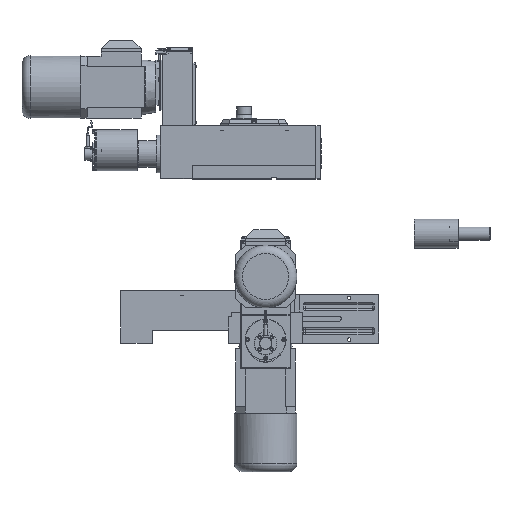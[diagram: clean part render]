
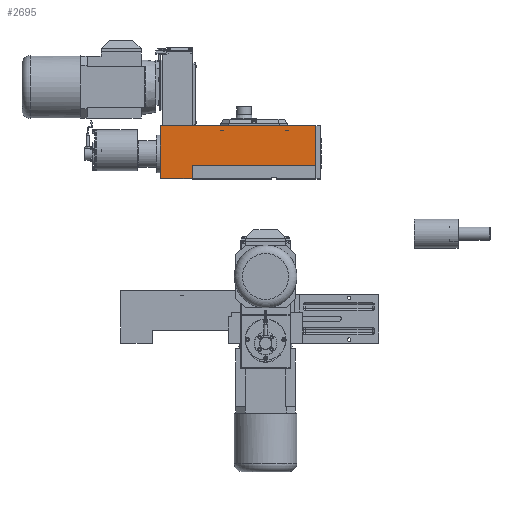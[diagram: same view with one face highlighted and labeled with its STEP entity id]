
A CAD part, front view. The second image highlights one B-rep face of the part: STEP entity #2695.
In plain terms, the highlighted planar face has unit normal (0, -1, 0).
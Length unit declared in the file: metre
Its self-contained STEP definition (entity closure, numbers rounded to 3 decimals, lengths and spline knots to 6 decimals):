
#2695 = ADVANCED_FACE( '', ( #3851 ), #3852, .T. );
#3851 = FACE_OUTER_BOUND( '', #6205, .T. );
#3852 = PLANE( '', #6206 );
#6205 = EDGE_LOOP( '', ( #9765, #9766, #9767, #9768, #9769, #9770 ) );
#6206 = AXIS2_PLACEMENT_3D( '', #9771, #9772, #9773 );
#9765 = ORIENTED_EDGE( '', *, *, #16547, .F. );
#9766 = ORIENTED_EDGE( '', *, *, #16548, .F. );
#9767 = ORIENTED_EDGE( '', *, *, #16549, .F. );
#9768 = ORIENTED_EDGE( '', *, *, #16550, .F. );
#9769 = ORIENTED_EDGE( '', *, *, #16512, .T. );
#9770 = ORIENTED_EDGE( '', *, *, #16551, .T. );
#9771 = CARTESIAN_POINT( '', ( 0.025, -0.019444, 0. ) );
#9772 = DIRECTION( '', ( 0., -1., 0. ) );
#9773 = DIRECTION( '', ( 0., 0., -1. ) );
#16512 = EDGE_CURVE( '', #18626, #18624, #18627, .T. );
#16547 = EDGE_CURVE( '', #18645, #18685, #18686, .T. );
#16548 = EDGE_CURVE( '', #18650, #18645, #18687, .T. );
#16549 = EDGE_CURVE( '', #18576, #18650, #18688, .T. );
#16550 = EDGE_CURVE( '', #18626, #18576, #18689, .T. );
#16551 = EDGE_CURVE( '', #18624, #18685, #18690, .T. );
#18576 = VERTEX_POINT( '', #22114 );
#18624 = VERTEX_POINT( '', #22184 );
#18626 = VERTEX_POINT( '', #22187 );
#18627 = LINE( '', #22188, #22189 );
#18645 = VERTEX_POINT( '', #22209 );
#18650 = VERTEX_POINT( '', #22217 );
#18685 = VERTEX_POINT( '', #22272 );
#18686 = LINE( '', #22273, #22274 );
#18687 = LINE( '', #22275, #22276 );
#18688 = LINE( '', #22277, #22278 );
#18689 = LINE( '', #22279, #22280 );
#18690 = LINE( '', #22281, #22282 );
#22114 = CARTESIAN_POINT( '', ( -0.3465, -0.019444, 0.0005 ) );
#22184 = CARTESIAN_POINT( '', ( -0.271, -0.019444, 0.032 ) );
#22187 = CARTESIAN_POINT( '', ( -0.271, -0.019444, 0.0005 ) );
#22188 = CARTESIAN_POINT( '', ( -0.271, -0.019444, 0. ) );
#22189 = VECTOR( '', #28485, 1. );
#22209 = CARTESIAN_POINT( '', ( 0.0245, -0.019444, 0.1265 ) );
#22217 = CARTESIAN_POINT( '', ( -0.3465, -0.019444, 0.1265 ) );
#22272 = CARTESIAN_POINT( '', ( 0.0245, -0.019444, 0.032 ) );
#22273 = CARTESIAN_POINT( '', ( 0.0245, -0.019444, 0. ) );
#22274 = VECTOR( '', #28538, 1. );
#22275 = CARTESIAN_POINT( '', ( -0.068, -0.019444, 0.1265 ) );
#22276 = VECTOR( '', #28539, 1. );
#22277 = CARTESIAN_POINT( '', ( -0.3465, -0.019444, 0. ) );
#22278 = VECTOR( '', #28540, 1. );
#22279 = CARTESIAN_POINT( '', ( -0.068, -0.019444, 0.0005 ) );
#22280 = VECTOR( '', #28541, 1. );
#22281 = CARTESIAN_POINT( '', ( -0.049, -0.019444, 0.032 ) );
#22282 = VECTOR( '', #28542, 1. );
#28485 = DIRECTION( '', ( 0., 0., 1. ) );
#28538 = DIRECTION( '', ( 0., 0., -1. ) );
#28539 = DIRECTION( '', ( 1., 0., 0. ) );
#28540 = DIRECTION( '', ( 0., 0., 1. ) );
#28541 = DIRECTION( '', ( -1., 0., 0. ) );
#28542 = DIRECTION( '', ( 1., 0., 0. ) );
